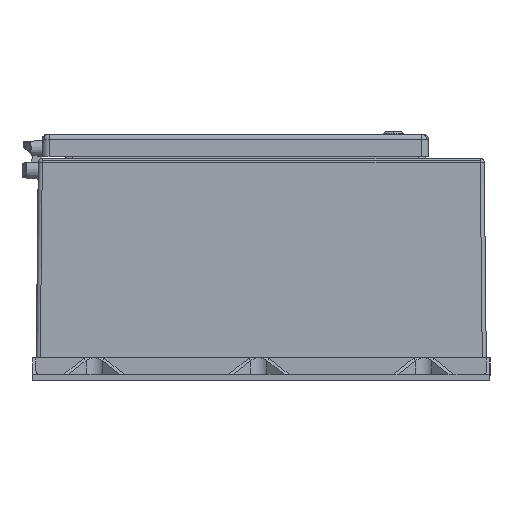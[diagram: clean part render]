
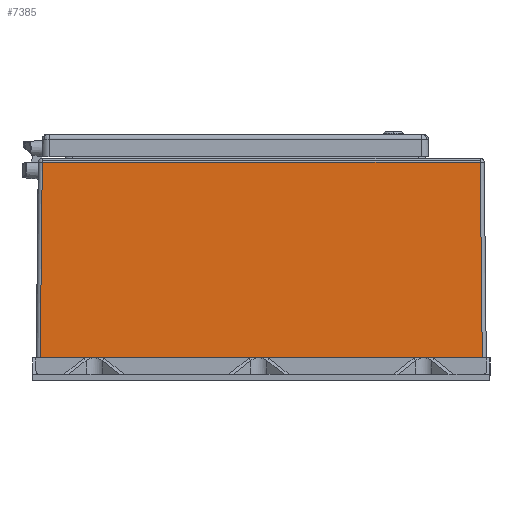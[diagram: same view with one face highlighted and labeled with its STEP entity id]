
A CAD part, front view. The second image highlights one B-rep face of the part: STEP entity #7385.
In plain terms, the highlighted planar face has unit normal (0, -1, 0.011).
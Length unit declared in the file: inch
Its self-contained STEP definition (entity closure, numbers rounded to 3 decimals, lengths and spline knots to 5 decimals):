
#7385 = ADVANCED_FACE ( 'NONE', ( #25646 ), #25644, .T. ) ;
#7386 = ORIENTED_EDGE ( 'NONE', *, *, #7387, .T. ) ;
#7387 = EDGE_CURVE ( 'NONE', #7388, #7389, #25645, .T. ) ;
#7388 = VERTEX_POINT ( 'NONE', #25634 ) ;
#7389 = VERTEX_POINT ( 'NONE', #25636 ) ;
#7390 = ORIENTED_EDGE ( 'NONE', *, *, #7391, .T. ) ;
#7391 = EDGE_CURVE ( 'NONE', #7389, #7392, #25695, .T. ) ;
#7392 = VERTEX_POINT ( 'NONE', #25691 ) ;
#7393 = ORIENTED_EDGE ( 'NONE', *, *, #7394, .T. ) ;
#7394 = EDGE_CURVE ( 'NONE', #7392, #7395, #25690, .T. ) ;
#7395 = VERTEX_POINT ( 'NONE', #25686 ) ;
#7411 = EDGE_LOOP ( 'NONE', ( #7386, #7390, #7393, #7449 ) ) ;
#7449 = ORIENTED_EDGE ( 'NONE', *, *, #7450, .T. ) ;
#7450 = EDGE_CURVE ( 'NONE', #7395, #7388, #25791, .T. ) ;
#25634 = CARTESIAN_POINT ( 'NONE',  ( 12.81114, -15.16012, 11.92429 ) ) ;
#25636 = CARTESIAN_POINT ( 'NONE',  ( -11.10114, -15.16012, 11.92429 ) ) ;
#25637 = DIRECTION ( 'NONE',  ( -1., 0., 0. ) ) ;
#25638 = VECTOR ( 'NONE', #25637, 39.37008 ) ;
#25639 = CARTESIAN_POINT ( 'NONE',  ( -11.31786, -15.16012, 11.92429 ) ) ;
#25640 = DIRECTION ( 'NONE',  ( 0., -0.01, -1. ) ) ;
#25641 = DIRECTION ( 'NONE',  ( 0., -1., 0.01 ) ) ;
#25642 = CARTESIAN_POINT ( 'NONE',  ( -11.445, -15.285, 0. ) ) ;
#25643 = AXIS2_PLACEMENT_3D ( 'NONE', #25642, #25641, #25640 ) ;
#25644 = PLANE ( 'NONE',  #25643 ) ;
#25645 = LINE ( 'NONE', #25639, #25638 ) ;
#25646 = FACE_OUTER_BOUND ( 'NONE', #7411, .T. ) ;
#25686 = CARTESIAN_POINT ( 'NONE',  ( 12.93601, -15.285, 0. ) ) ;
#25687 = DIRECTION ( 'NONE',  ( 1., 0., 0. ) ) ;
#25688 = VECTOR ( 'NONE', #25687, 39.37008 ) ;
#25689 = CARTESIAN_POINT ( 'NONE',  ( -11.445, -15.285, 0. ) ) ;
#25690 = LINE ( 'NONE', #25689, #25688 ) ;
#25691 = CARTESIAN_POINT ( 'NONE',  ( -11.22601, -15.285, 0. ) ) ;
#25692 = DIRECTION ( 'NONE',  ( -0.01, -0.01, -1. ) ) ;
#25693 = VECTOR ( 'NONE', #25692, 39.37008 ) ;
#25694 = CARTESIAN_POINT ( 'NONE',  ( -11.22604, -15.28502, -0.00229 ) ) ;
#25695 = LINE ( 'NONE', #25694, #25693 ) ;
#25788 = DIRECTION ( 'NONE',  ( -0.01, 0.01, 1. ) ) ;
#25789 = VECTOR ( 'NONE', #25788, 39.37008 ) ;
#25790 = CARTESIAN_POINT ( 'NONE',  ( 12.93334, -15.28233, 0.25527 ) ) ;
#25791 = LINE ( 'NONE', #25790, #25789 ) ;
